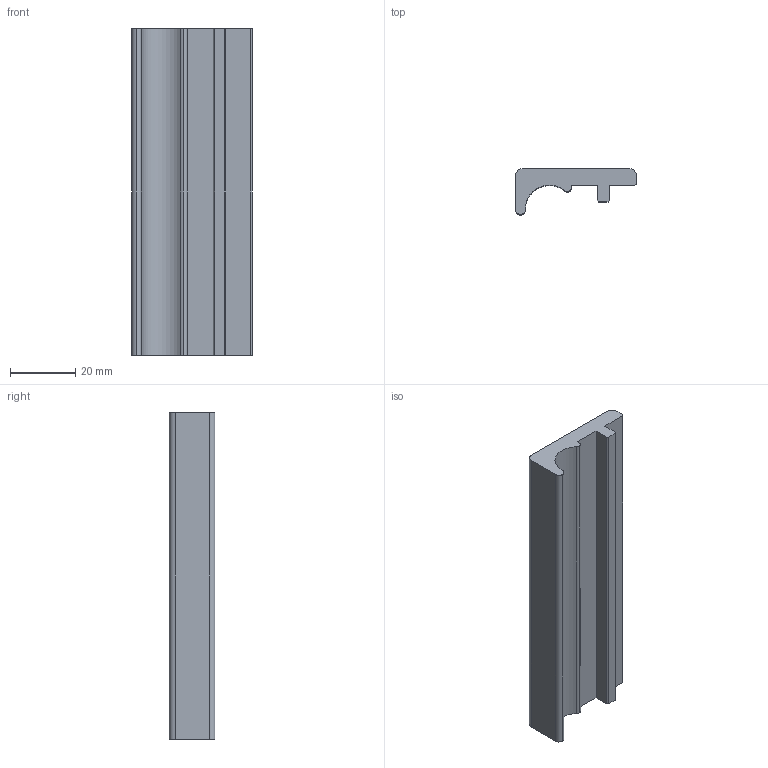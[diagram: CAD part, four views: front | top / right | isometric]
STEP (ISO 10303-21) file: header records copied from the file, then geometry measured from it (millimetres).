
FILE_DESCRIPTION(/* description */ (''),/* implementation_level */ '2;1');
FILE_NAME(/* name */ 'Griffleiste Saya v1.step',/* time_stamp */ '2024-08-15T18:15:36+02:00',/* author */ (''),/* organization */ (''),/* preprocessor_version */ 'ST-DEVELOPER v20',/* originating_system */ 'Autodesk Translation Framework v12.20.1.177',/* authorisation */ '');
FILE_SCHEMA (('AUTOMOTIVE_DESIGN { 1 0 10303 214 3 1 1 }','MODEL_BASED_INTEGRATED_MANUFACTURING_SCHEMA'));
Length unit declared in the file: millimetre
Products named in the file (1): Griffleiste Saya
Bounding box: 37 x 14 x 100 mm (x, y, z)
Volume: 24527.6 mm3; surface area: 11197.1 mm2
Topology: 1 solids, 1 shells, 21 faces, 57 edges, 38 vertices
Faces by surface type: plane 14, cylinder 7
Entity records: 698 total; most frequent: CARTESIAN_POINT 117, DIRECTION 115, ORIENTED_EDGE 114, EDGE_CURVE 57, LINE 43, VECTOR 43, VERTEX_POINT 38, AXIS2_PLACEMENT_3D 36
